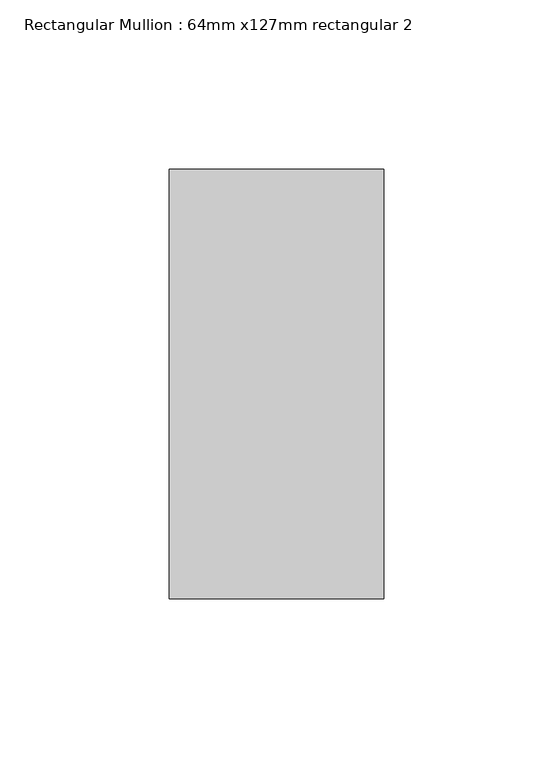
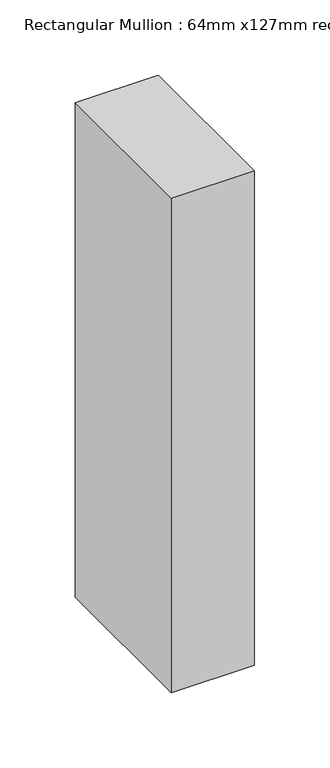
"""IFC4 building model written with IfcOpenShell, lengths in millimetres: member geometry, Rectangular Mullion : 64mm x127mm rectangular 2."""

from ifc_helpers import new_model, si_unit, frame, origin, place, context, project, spatial, polyline, outline, extrude, source, transform, mapped, element, save


def rectangular_mullion_64mm_x127mm_rectangular_2_1ad5418d(model_context):
    return source(origin(), model_context, "Body", "SweptSolid", [
        extrude(outline(polyline([(0.0, 63.5), (0.0, -63.5), (-63.5, -63.5), (-63.5, 63.5), (0.0, 63.5)])), frame((0.0, 0.0, -400.05), z_axis=(0.0, 0.0, 1.0), x_axis=(1.0, 0.0, 0.0)), (0.0, 0.0, 1.0), 400.05),
    ])


if __name__ == "__main__":
    model = new_model("IFC4")
    model_context = context("Model", 3, world=origin())
    ifc_project = project(units=[si_unit("LENGTHUNIT", "METRE", prefix="MILLI")], contexts=[model_context])
    site = spatial("IfcSite", under=ifc_project)
    building = spatial("IfcBuilding", under=site)
    placement = place(None, origin())
    rectangular_mullion_64mm_x127mm_rectangular_2_shape = rectangular_mullion_64mm_x127mm_rectangular_2_1ad5418d(model_context)
    element("IfcMember", 1, ObjectType="Rectangular Mullion : 64mm x127mm rectangular 2", at=placement, inside=building, context=model_context, shape_type="MappedRepresentation", body=[
        mapped(rectangular_mullion_64mm_x127mm_rectangular_2_shape, transform((0.0, 0.0, 0.0), x_axis=(1.0, 0.0, 0.0), y_axis=(0.0, 1.0, 0.0), z_axis=(0.0, 0.0, 1.0))),
    ])
    save(model, "model.ifc")
